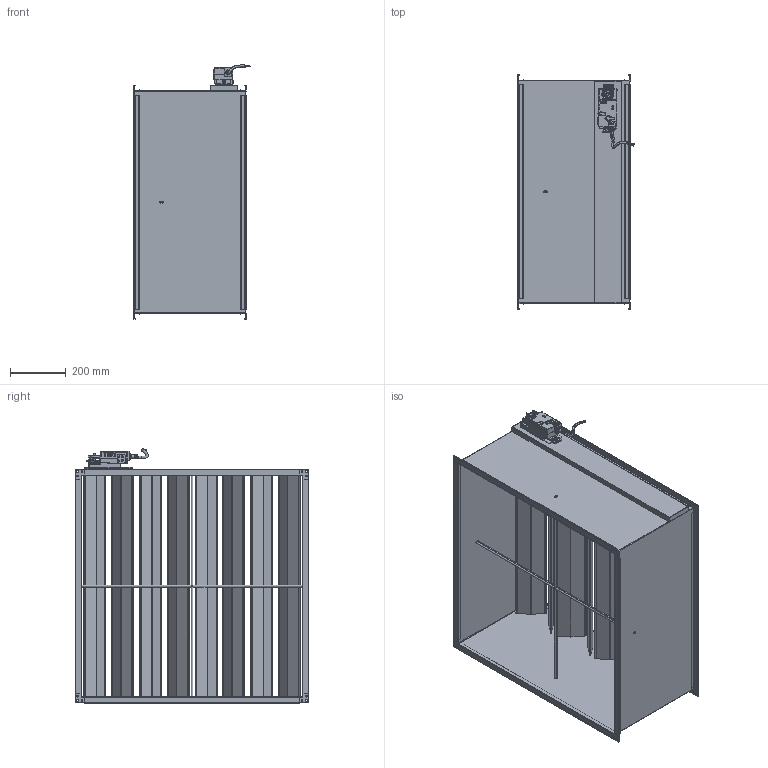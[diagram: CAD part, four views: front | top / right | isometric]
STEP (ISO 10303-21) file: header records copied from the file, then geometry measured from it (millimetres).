
FILE_DESCRIPTION (( 'STEP AP214' ), '1' );
FILE_NAME ('VAV-S800800.STEP', '2025-05-08T11:53:07', ( '' ), ( '' ), 'SwSTEP 2.0', 'SolidWorks 2025', '' );
FILE_SCHEMA (( 'AUTOMOTIVE_DESIGN' ));
Length unit declared in the file: millimetre
Products named in the file (1): VAV-S800800
Bounding box: 420.17 x 841 x 913.68 mm (x, y, z)
Surface area: 5349934.7 mm2 (no closed solid volume)
Topology: 0 solids, 48 shells, 2158 faces, 5652 edges, 3599 vertices
Faces by surface type: plane 1565, cylinder 540, bspline 24, sphere 18, cone 10, torus 1
Full cylindrical faces by diameter (mm): 1 x4, 6 x17, 8 x1, 9 x8, 11 x1, 20 x1, 21 x2
Entity records: 93789 total; most frequent: CARTESIAN_POINT 41715, ORIENTED_EDGE 11091, DIRECTION 7293, EDGE_CURVE 5569, VERTEX_POINT 3573, B_SPLINE_CURVE_WITH_KNOTS 3154, AXIS2_PLACEMENT_3D 2767, EDGE_LOOP 2369
